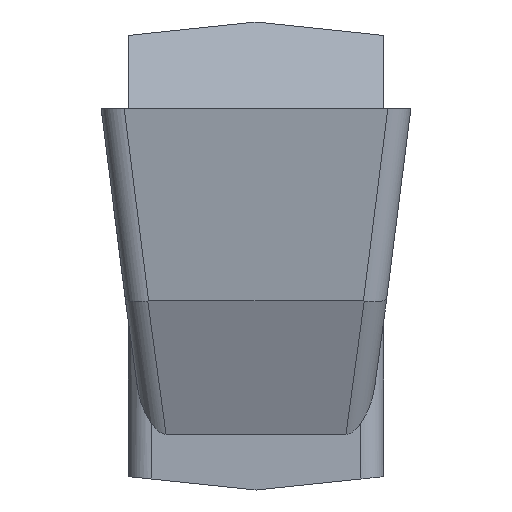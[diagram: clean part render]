
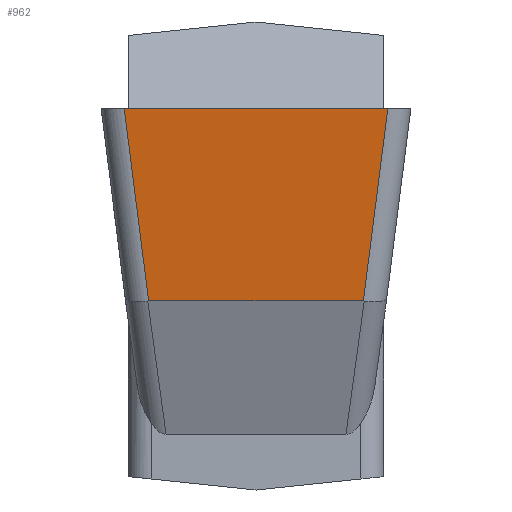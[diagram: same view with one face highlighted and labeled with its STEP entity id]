
A CAD part, left-side view. The second image highlights one B-rep face of the part: STEP entity #962.
In plain terms, the highlighted planar face has unit normal (-0.993, 0, -0.122).
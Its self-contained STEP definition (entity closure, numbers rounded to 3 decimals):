
#61 = VECTOR ( 'NONE', #1275, 1000. ) ;
#62 = VERTEX_POINT ( 'NONE', #228 ) ;
#84 = CARTESIAN_POINT ( 'NONE',  ( 5.105, 7.474, 0.038 ) ) ;
#106 = VECTOR ( 'NONE', #555, 1000. ) ;
#162 = FACE_OUTER_BOUND ( 'NONE', #516, .T. ) ;
#188 = VECTOR ( 'NONE', #466, 1000. ) ;
#225 = CARTESIAN_POINT ( 'NONE',  ( 5.11, 4.064, 0. ) ) ;
#228 = CARTESIAN_POINT ( 'NONE',  ( 5.11, 7.469, 0. ) ) ;
#250 = CARTESIAN_POINT ( 'NONE',  ( 5.166, 4.122, -0.458 ) ) ;
#263 = ORIENTED_EDGE ( 'NONE', *, *, #607, .F. ) ;
#313 = PLANE ( 'NONE',  #917 ) ;
#411 = CARTESIAN_POINT ( 'NONE',  ( 5.11, 7.777, 0. ) ) ;
#460 = LINE ( 'NONE', #250, #188 ) ;
#466 = DIRECTION ( 'NONE',  ( 0.121, 0.125, -0.985 ) ) ;
#504 = ORIENTED_EDGE ( 'NONE', *, *, #1282, .T. ) ;
#516 = EDGE_LOOP ( 'NONE', ( #1081, #1289, #504, #263 ) ) ;
#555 = DIRECTION ( 'NONE',  ( 0., -1., 0. ) ) ;
#557 = LINE ( 'NONE', #864, #61 ) ;
#607 = EDGE_CURVE ( 'NONE', #1119, #1326, #460, .T. ) ;
#706 = CARTESIAN_POINT ( 'NONE',  ( 5.414, 7.153, -2.481 ) ) ;
#742 = CARTESIAN_POINT ( 'NONE',  ( 5.414, 4.38, -2.481 ) ) ;
#761 = VERTEX_POINT ( 'NONE', #706 ) ;
#864 = CARTESIAN_POINT ( 'NONE',  ( 5.414, 7.777, -2.481 ) ) ;
#917 = AXIS2_PLACEMENT_3D ( 'NONE', #411, #1312, #1230 ) ;
#922 = EDGE_CURVE ( 'NONE', #761, #62, #1172, .T. ) ;
#956 = CARTESIAN_POINT ( 'NONE',  ( 5.11, 7.777, 0. ) ) ;
#962 = ADVANCED_FACE ( 'NONE', ( #162 ), #313, .T. ) ;
#1036 = LINE ( 'NONE', #956, #106 ) ;
#1081 = ORIENTED_EDGE ( 'NONE', *, *, #1176, .F. ) ;
#1119 = VERTEX_POINT ( 'NONE', #225 ) ;
#1172 = LINE ( 'NONE', #84, #1328 ) ;
#1176 = EDGE_CURVE ( 'NONE', #62, #1119, #1036, .T. ) ;
#1191 = DIRECTION ( 'NONE',  ( -0.121, 0.125, 0.985 ) ) ;
#1230 = DIRECTION ( 'NONE',  ( -0.122, 0., 0.993 ) ) ;
#1275 = DIRECTION ( 'NONE',  ( 0., -1., 0. ) ) ;
#1282 = EDGE_CURVE ( 'NONE', #761, #1326, #557, .T. ) ;
#1289 = ORIENTED_EDGE ( 'NONE', *, *, #922, .F. ) ;
#1312 = DIRECTION ( 'NONE',  ( -0.993, 0., -0.122 ) ) ;
#1326 = VERTEX_POINT ( 'NONE', #742 ) ;
#1328 = VECTOR ( 'NONE', #1191, 1000. ) ;
